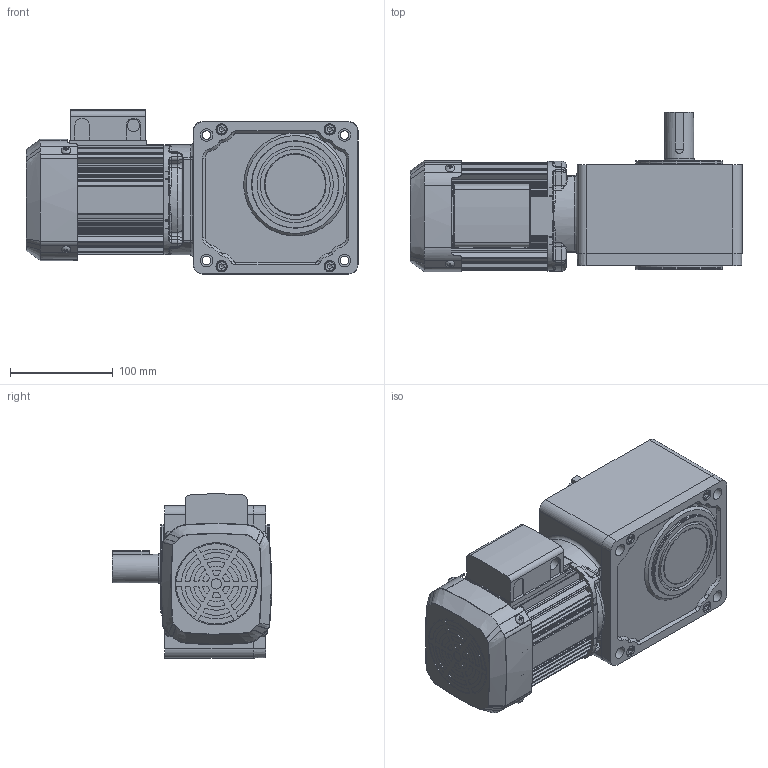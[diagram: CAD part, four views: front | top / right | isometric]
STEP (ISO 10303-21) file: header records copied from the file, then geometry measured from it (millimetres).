
FILE_DESCRIPTION( ( 'Unknown' ), '1' );
FILE_NAME( 'W:/gm/3D-WEB/GM-SHY/完成品/パーツ/完成品/三相/shymrl_02_80-240.stp', 'Unknown', ( 'Unknown' ), ( 'Unknown' ), 'PSStep 11.0', 'Unknown', ' ' );
FILE_SCHEMA( ( 'AUTOMOTIVE_DESIGN { 1 0 10303 214 1 1 1 1 }' ) );
Length unit declared in the file: millimetre
Products named in the file (6): P265320H10_ 衛偯枆參(0.1,0.2kW 63Fr)
Bounding box: 322.5 x 155 x 159.38 mm (x, y, z)
Volume: 2631911.5 mm3; surface area: 373581.2 mm2
Topology: 6 solids, 18 shells, 1283 faces, 3323 edges, 2120 vertices
Faces by surface type: cylinder 555, plane 481, bspline 91, torus 80, cone 62, sphere 8, offset 6
Full cylindrical faces by diameter (mm): 3.3 x4, 4 x4, 4.134 x8, 4.5 x8, 4.8 x4, 4.917 x1, 6 x6, 6.2 x1, 6.6 x4, 8.376 x4, 10 x5, 11 x4, 12 x6, 15 x1, 16 x1, 28 x1, 29 x2, 32 x1, 40 x1, 45 x1, 48.5 x1, 53.8 x1, 60 x4, 68 x3, 74 x2, 75 x1, 80 x1, 84.7 x2, 85 x4, 100 x1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
Entity records: 59750 total; most frequent: CARTESIAN_POINT 19016, DIRECTION 6454, ORIENTED_EDGE 6168, EDGE_CURVE 3084, AXIS2_PLACEMENT_3D 2531, VERTEX_POINT 2067, EDGE_LOOP 1528, LINE 1392
